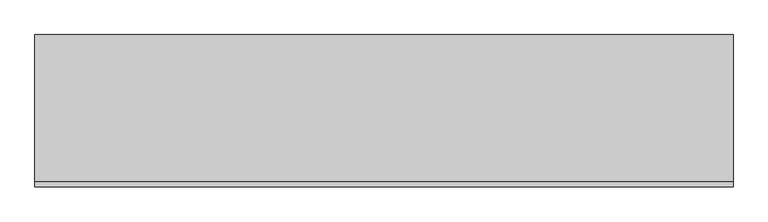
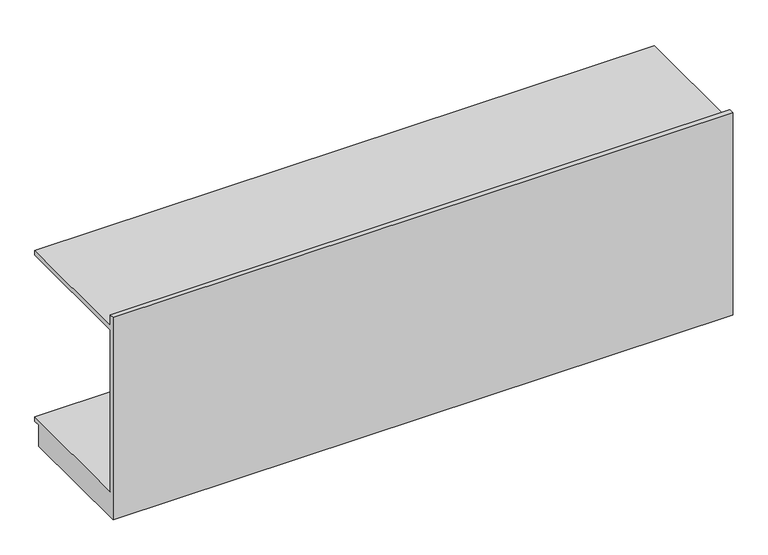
"""IFC4 building model written with IfcOpenShell, lengths in millimetres: furniture geometry, ARQ_MOB_MESONES_COCINA_2 : MESONES_COCINA."""

from ifc_helpers import new_model, si_unit, frame, origin, place, context, project, spatial, polyline, outline, extrude, source, transform, mapped, element, save


def furniture_78a649b8(model_context):
    return source(origin(), model_context, "Body", "SweptSolid", [
        extrude(outline(polyline([(-6220.6055729, 100.0), (-6220.6055729, 0.0), (-6790.6055729, 0.0), (-6790.6055729, 950.0), (-6770.6055729, 950.0), (-6770.6055729, 900.0), (-6190.6055729, 900.0), (-6190.6055729, 880.0), (-6770.6055729, 880.0), (-6770.6055729, 120.0), (-6190.6055729, 120.0), (-6190.6055729, 100.0), (-6220.6055729, 100.0)])), frame((9875.5015264, 0.0, 0.0), z_axis=(1.0, 0.0, 0.0), x_axis=(0.0, 1.0, 0.0)), (0.0, 0.0, 1.0), 2750.0),
    ])


if __name__ == "__main__":
    model = new_model("IFC4")
    model_context = context("Model", 3, world=origin())
    ifc_project = project(units=[si_unit("LENGTHUNIT", "METRE", prefix="MILLI")], contexts=[model_context])
    site = spatial("IfcSite", under=ifc_project)
    building = spatial("IfcBuilding", under=site)
    placement = place(None, origin())
    furniture_shape = furniture_78a649b8(model_context)
    element("IfcFurniture", 1, ObjectType="ARQ_MOB_MESONES_COCINA_2 : MESONES_COCINA", at=placement, inside=building, context=model_context, shape_type="MappedRepresentation", body=[
        mapped(furniture_shape, transform((0.0, 0.0, 0.0), x_axis=(1.0, 0.0, 0.0), y_axis=(0.0, 1.0, 0.0), z_axis=(0.0, 0.0, 1.0))),
    ])
    save(model, "model.ifc")
